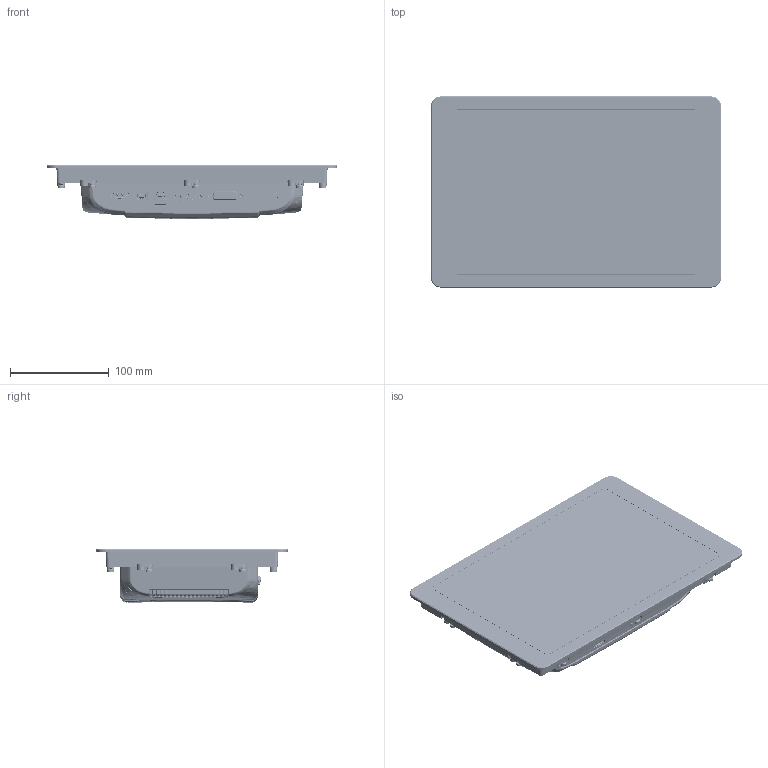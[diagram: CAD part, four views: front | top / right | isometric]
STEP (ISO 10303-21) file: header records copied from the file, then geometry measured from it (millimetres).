
FILE_DESCRIPTION(/* description */ (''),/* implementation_level */ '2;1');
FILE_NAME(/* name */ 'TDD2XXXX-10.1.stp',/* time_stamp */ '2026-03-11T15:33:51+08:00',/* author */ (''),/* organization */ (''),/* preprocessor_version */ 'ST-DEVELOPER v16',/* originating_system */ 'SIEMENS PLM Software NX 10.0',/* authorisation */ '');
FILE_SCHEMA (('AP203_CONFIGURATION_CONTROLLED_3D_DESIGN_OF_MECHANICAL_PARTS_AND_ASSEMBLIES_MIM_LF { 1 0 10303 403 2 1 2}'));
Products named in the file (1): Admi03F87D75pq8m
Bounding box: 293.6 x 193.6 x 55.1 mm (x, y, z)
Volume: 742945.3 mm3; surface area: 631592.7 mm2
Topology: 145 solids, 155 shells, 12604 faces, 31165 edges, 18959 vertices
Faces by surface type: plane 5074, cylinder 3970, bspline 2270, torus 712, sphere 317, cone 261
Full cylindrical faces by diameter (mm): 3.2 x20, 4 x10, 4.2 x4, 4.5 x21, 5.4 x4, 6 x10, 7 x10
Entity records: 444394 total; most frequent: CARTESIAN_POINT 166888, ORIENTED_EDGE 61576, DIRECTION 52922, EDGE_CURVE 30788, VERTEX_POINT 18924, AXIS2_PLACEMENT_3D 18564, LINE 15794, VECTOR 15794
